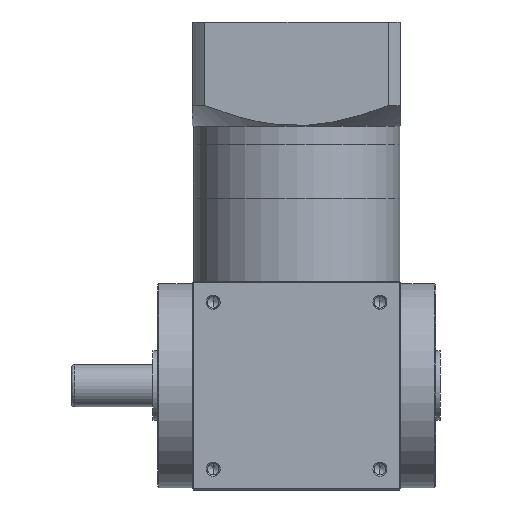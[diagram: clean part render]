
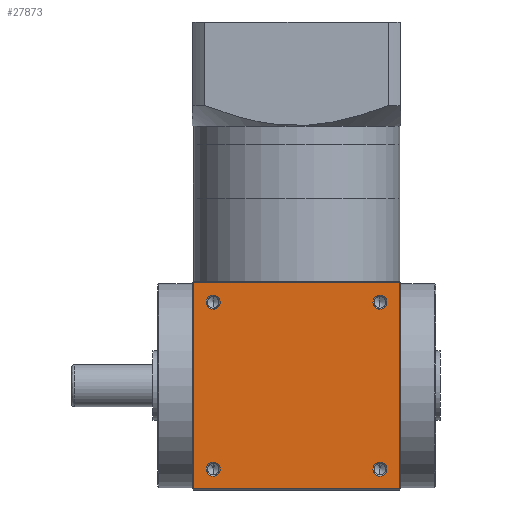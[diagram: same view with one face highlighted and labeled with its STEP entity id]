
A CAD part, front view. The second image highlights one B-rep face of the part: STEP entity #27873.
In plain terms, the highlighted planar face has unit normal (0, -1, 0).
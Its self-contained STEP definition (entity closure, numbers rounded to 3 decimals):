
#294 = ORIENTED_EDGE ( 'NONE', *, *, #7194, .F. ) ;
#958 = CARTESIAN_POINT ( 'NONE',  ( -44.5, -45., 0.5 ) ) ;
#1193 = CARTESIAN_POINT ( 'NONE',  ( -36., -45., 9. ) ) ;
#1289 = ORIENTED_EDGE ( 'NONE', *, *, #23227, .F. ) ;
#1712 = AXIS2_PLACEMENT_3D ( 'NONE', #1193, #28326, #5152 ) ;
#2135 = AXIS2_PLACEMENT_3D ( 'NONE', #14729, #41814, #18611 ) ;
#3052 = CARTESIAN_POINT ( 'NONE',  ( 36., -45., 81. ) ) ;
#3053 = CARTESIAN_POINT ( 'NONE',  ( -45., -45., 0.5 ) ) ;
#3328 = VERTEX_POINT ( 'NONE', #48928 ) ;
#3651 = EDGE_CURVE ( 'NONE', #12643, #27328, #38495, .T. ) ;
#3780 = LINE ( 'NONE', #28636, #23172 ) ;
#4016 = CARTESIAN_POINT ( 'NONE',  ( 36., -45., 77.975 ) ) ;
#4120 = LINE ( 'NONE', #31377, #42917 ) ;
#4211 = FACE_BOUND ( 'NONE', #24673, .T. ) ;
#4645 = VERTEX_POINT ( 'NONE', #26129 ) ;
#4915 = CIRCLE ( 'NONE', #40481, 3.025 ) ;
#5029 = DIRECTION ( 'NONE',  ( 0., -1., 0. ) ) ;
#5065 = DIRECTION ( 'NONE',  ( 0., -1., 0. ) ) ;
#5152 = DIRECTION ( 'NONE',  ( 0., 0., -1. ) ) ;
#5849 = AXIS2_PLACEMENT_3D ( 'NONE', #28235, #5065, #32122 ) ;
#6124 = CARTESIAN_POINT ( 'NONE',  ( 44.5, -45., 0.5 ) ) ;
#6949 = DIRECTION ( 'NONE',  ( 0., 0., -1. ) ) ;
#7194 = EDGE_CURVE ( 'NONE', #8528, #3328, #36484, .T. ) ;
#7241 = CARTESIAN_POINT ( 'NONE',  ( -45., -45., 90. ) ) ;
#7584 = VECTOR ( 'NONE', #16691, 1000. ) ;
#7762 = CIRCLE ( 'NONE', #5849, 3.025 ) ;
#8177 = EDGE_CURVE ( 'NONE', #8685, #4645, #33345, .T. ) ;
#8312 = CARTESIAN_POINT ( 'NONE',  ( 44.5, -45., 89.5 ) ) ;
#8528 = VERTEX_POINT ( 'NONE', #37054 ) ;
#8685 = VERTEX_POINT ( 'NONE', #4016 ) ;
#9234 = CARTESIAN_POINT ( 'NONE',  ( 36., -45., 12.025 ) ) ;
#9275 = ORIENTED_EDGE ( 'NONE', *, *, #20803, .F. ) ;
#10193 = CARTESIAN_POINT ( 'NONE',  ( -36., -45., 81. ) ) ;
#12553 = VECTOR ( 'NONE', #41822, 1000. ) ;
#12643 = VERTEX_POINT ( 'NONE', #45069 ) ;
#12814 = CARTESIAN_POINT ( 'NONE',  ( -45., -45., 89.5 ) ) ;
#13882 = CARTESIAN_POINT ( 'NONE',  ( 36., -45., 5.975 ) ) ;
#14008 = CARTESIAN_POINT ( 'NONE',  ( -36., -45., 5.975 ) ) ;
#14091 = DIRECTION ( 'NONE',  ( 0., 0., -1. ) ) ;
#14194 = AXIS2_PLACEMENT_3D ( 'NONE', #7241, #38234, #15025 ) ;
#14343 = VERTEX_POINT ( 'NONE', #39761 ) ;
#14502 = FACE_BOUND ( 'NONE', #21723, .T. ) ;
#14551 = CARTESIAN_POINT ( 'NONE',  ( 36., -45., 9. ) ) ;
#14729 = CARTESIAN_POINT ( 'NONE',  ( -36., -45., 9. ) ) ;
#14968 = LINE ( 'NONE', #3053, #12553 ) ;
#15025 = DIRECTION ( 'NONE',  ( 0., 0., 1. ) ) ;
#15090 = CARTESIAN_POINT ( 'NONE',  ( 36., -45., 81. ) ) ;
#15744 = EDGE_CURVE ( 'NONE', #27328, #37587, #3780, .T. ) ;
#15757 = ORIENTED_EDGE ( 'NONE', *, *, #27006, .F. ) ;
#16691 = DIRECTION ( 'NONE',  ( 1., 0., 0. ) ) ;
#17642 = EDGE_LOOP ( 'NONE', ( #34866, #294 ) ) ;
#17868 = EDGE_CURVE ( 'NONE', #3328, #8528, #42413, .T. ) ;
#18452 = DIRECTION ( 'NONE',  ( 0., 0., -1. ) ) ;
#18611 = DIRECTION ( 'NONE',  ( 0., 0., -1. ) ) ;
#18984 = DIRECTION ( 'NONE',  ( 0., 0., -1. ) ) ;
#19357 = ORIENTED_EDGE ( 'NONE', *, *, #15744, .F. ) ;
#20803 = EDGE_CURVE ( 'NONE', #37587, #30587, #14968, .T. ) ;
#20816 = CIRCLE ( 'NONE', #38111, 3.025 ) ;
#21723 = EDGE_LOOP ( 'NONE', ( #22141, #15757 ) ) ;
#22141 = ORIENTED_EDGE ( 'NONE', *, *, #8177, .F. ) ;
#23172 = VECTOR ( 'NONE', #32523, 1000. ) ;
#23227 = EDGE_CURVE ( 'NONE', #30780, #14343, #34760, .T. ) ;
#23321 = AXIS2_PLACEMENT_3D ( 'NONE', #10193, #37284, #14091 ) ;
#24673 = EDGE_LOOP ( 'NONE', ( #1289, #39555 ) ) ;
#26129 = CARTESIAN_POINT ( 'NONE',  ( 36., -45., 84.025 ) ) ;
#26367 = ORIENTED_EDGE ( 'NONE', *, *, #45702, .F. ) ;
#26544 = PLANE ( 'NONE',  #14194 ) ;
#26723 = CIRCLE ( 'NONE', #2135, 3.025 ) ;
#26967 = EDGE_LOOP ( 'NONE', ( #26367, #33623 ) ) ;
#27006 = EDGE_CURVE ( 'NONE', #4645, #8685, #4915, .T. ) ;
#27328 = VERTEX_POINT ( 'NONE', #8312 ) ;
#27666 = DIRECTION ( 'NONE',  ( 0., 0., 1. ) ) ;
#27717 = AXIS2_PLACEMENT_3D ( 'NONE', #3052, #30161, #6949 ) ;
#27873 = ADVANCED_FACE ( 'NONE', ( #14502, #38757, #35120, #4211, #44218 ), #26544, .F. ) ;
#28017 = AXIS2_PLACEMENT_3D ( 'NONE', #28204, #5029, #32082 ) ;
#28204 = CARTESIAN_POINT ( 'NONE',  ( -36., -45., 81. ) ) ;
#28235 = CARTESIAN_POINT ( 'NONE',  ( 36., -45., 9. ) ) ;
#28326 = DIRECTION ( 'NONE',  ( 0., -1., 0. ) ) ;
#28636 = CARTESIAN_POINT ( 'NONE',  ( 44.5, -45., 90. ) ) ;
#29245 = VERTEX_POINT ( 'NONE', #13882 ) ;
#29698 = EDGE_CURVE ( 'NONE', #36879, #29245, #7762, .T. ) ;
#30161 = DIRECTION ( 'NONE',  ( 0., -1., 0. ) ) ;
#30587 = VERTEX_POINT ( 'NONE', #958 ) ;
#30780 = VERTEX_POINT ( 'NONE', #14008 ) ;
#31377 = CARTESIAN_POINT ( 'NONE',  ( -44.5, -45., 90. ) ) ;
#32082 = DIRECTION ( 'NONE',  ( 0., 0., -1. ) ) ;
#32122 = DIRECTION ( 'NONE',  ( 0., 0., -1. ) ) ;
#32523 = DIRECTION ( 'NONE',  ( 0., 0., -1. ) ) ;
#33345 = CIRCLE ( 'NONE', #27717, 3.025 ) ;
#33623 = ORIENTED_EDGE ( 'NONE', *, *, #29698, .F. ) ;
#34760 = CIRCLE ( 'NONE', #1712, 3.025 ) ;
#34866 = ORIENTED_EDGE ( 'NONE', *, *, #17868, .F. ) ;
#35120 = FACE_BOUND ( 'NONE', #26967, .T. ) ;
#36484 = CIRCLE ( 'NONE', #28017, 3.025 ) ;
#36879 = VERTEX_POINT ( 'NONE', #9234 ) ;
#37054 = CARTESIAN_POINT ( 'NONE',  ( -36., -45., 84.025 ) ) ;
#37284 = DIRECTION ( 'NONE',  ( 0., -1., 0. ) ) ;
#37587 = VERTEX_POINT ( 'NONE', #6124 ) ;
#38111 = AXIS2_PLACEMENT_3D ( 'NONE', #14551, #41653, #18452 ) ;
#38234 = DIRECTION ( 'NONE',  ( 0., 1., 0. ) ) ;
#38495 = LINE ( 'NONE', #12814, #7584 ) ;
#38757 = FACE_BOUND ( 'NONE', #17642, .T. ) ;
#39555 = ORIENTED_EDGE ( 'NONE', *, *, #47156, .F. ) ;
#39761 = CARTESIAN_POINT ( 'NONE',  ( -36., -45., 12.025 ) ) ;
#40481 = AXIS2_PLACEMENT_3D ( 'NONE', #15090, #42186, #18984 ) ;
#40701 = EDGE_CURVE ( 'NONE', #30587, #12643, #4120, .T. ) ;
#41653 = DIRECTION ( 'NONE',  ( 0., -1., 0. ) ) ;
#41814 = DIRECTION ( 'NONE',  ( 0., -1., 0. ) ) ;
#41822 = DIRECTION ( 'NONE',  ( -1., 0., 0. ) ) ;
#42186 = DIRECTION ( 'NONE',  ( 0., -1., 0. ) ) ;
#42413 = CIRCLE ( 'NONE', #23321, 3.025 ) ;
#42917 = VECTOR ( 'NONE', #27666, 1000. ) ;
#44218 = FACE_OUTER_BOUND ( 'NONE', #48196, .T. ) ;
#45054 = ORIENTED_EDGE ( 'NONE', *, *, #40701, .F. ) ;
#45069 = CARTESIAN_POINT ( 'NONE',  ( -44.5, -45., 89.5 ) ) ;
#45702 = EDGE_CURVE ( 'NONE', #29245, #36879, #20816, .T. ) ;
#46727 = ORIENTED_EDGE ( 'NONE', *, *, #3651, .F. ) ;
#47156 = EDGE_CURVE ( 'NONE', #14343, #30780, #26723, .T. ) ;
#48196 = EDGE_LOOP ( 'NONE', ( #9275, #19357, #46727, #45054 ) ) ;
#48928 = CARTESIAN_POINT ( 'NONE',  ( -36., -45., 77.975 ) ) ;
